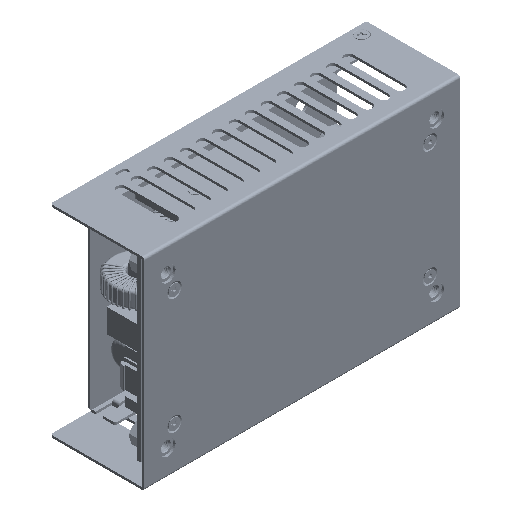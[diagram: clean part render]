
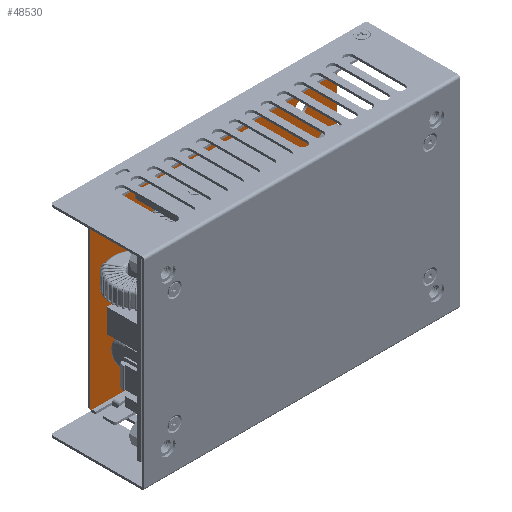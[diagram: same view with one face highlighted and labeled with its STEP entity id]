
A CAD part, isometric view. The second image highlights one B-rep face of the part: STEP entity #48530.
In plain terms, the highlighted planar face has unit normal (0, -1, 0).
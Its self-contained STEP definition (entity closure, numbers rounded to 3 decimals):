
#5991 = CARTESIAN_POINT ( 'NONE',  ( 59., 15., -41.3 ) ) ;
#6371 = ORIENTED_EDGE ( 'NONE', *, *, #142259, .F. ) ;
#6690 = EDGE_CURVE ( 'NONE', #109382, #33200, #245740, .T. ) ;
#8556 = DIRECTION ( 'NONE',  ( -1., 0., 0. ) ) ;
#10944 = CARTESIAN_POINT ( 'NONE',  ( 59., 15., -37.4 ) ) ;
#12196 = ORIENTED_EDGE ( 'NONE', *, *, #52562, .T. ) ;
#12237 = LINE ( 'NONE', #10944, #219708 ) ;
#12455 = ORIENTED_EDGE ( 'NONE', *, *, #212007, .T. ) ;
#12534 = EDGE_CURVE ( 'NONE', #62333, #123809, #203147, .T. ) ;
#12924 = DIRECTION ( 'NONE',  ( 0., -1., 0. ) ) ;
#13942 = PLANE ( 'NONE',  #137187 ) ;
#14327 = EDGE_CURVE ( 'NONE', #179718, #181328, #251128, .T. ) ;
#14764 = CARTESIAN_POINT ( 'NONE',  ( 31., 15., 26.5 ) ) ;
#15979 = ORIENTED_EDGE ( 'NONE', *, *, #12534, .T. ) ;
#16812 = CARTESIAN_POINT ( 'NONE',  ( -59., 15., 40.3 ) ) ;
#17821 = CARTESIAN_POINT ( 'NONE',  ( 59., 15., 42.4 ) ) ;
#23015 = CARTESIAN_POINT ( 'NONE',  ( 47.5, 15., 36.4 ) ) ;
#33200 = VERTEX_POINT ( 'NONE', #250126 ) ;
#38866 = FACE_BOUND ( 'NONE', #132678, .T. ) ;
#39366 = CARTESIAN_POINT ( 'NONE',  ( 46.5, 15., -36.4 ) ) ;
#41255 = CIRCLE ( 'NONE', #180224, 1. ) ;
#44961 = CARTESIAN_POINT ( 'NONE',  ( 58.9, 15., 41.3 ) ) ;
#45938 = VECTOR ( 'NONE', #73579, 1000. ) ;
#47886 = ORIENTED_EDGE ( 'NONE', *, *, #6690, .F. ) ;
#48512 = CARTESIAN_POINT ( 'NONE',  ( 58.9, 15., -41.3 ) ) ;
#48530 = ADVANCED_FACE ( 'NONE', ( #38866, #117916 ), #13942, .F. ) ;
#52475 = LINE ( 'NONE', #132878, #45938 ) ;
#52544 = EDGE_CURVE ( 'NONE', #235434, #109382, #124423, .T. ) ;
#52562 = EDGE_CURVE ( 'NONE', #138876, #73106, #134453, .T. ) ;
#56216 = VECTOR ( 'NONE', #89128, 1000. ) ;
#57631 = VERTEX_POINT ( 'NONE', #137334 ) ;
#59081 = VECTOR ( 'NONE', #8556, 1000. ) ;
#59282 = DIRECTION ( 'NONE',  ( -1., 0., 0. ) ) ;
#59777 = EDGE_CURVE ( 'NONE', #154715, #235434, #12237, .T. ) ;
#60974 = VERTEX_POINT ( 'NONE', #181398 ) ;
#62333 = VERTEX_POINT ( 'NONE', #213561 ) ;
#62439 = CARTESIAN_POINT ( 'NONE',  ( 47.5, 15., -36.4 ) ) ;
#64254 = ORIENTED_EDGE ( 'NONE', *, *, #150198, .F. ) ;
#65245 = ORIENTED_EDGE ( 'NONE', *, *, #138652, .T. ) ;
#73106 = VERTEX_POINT ( 'NONE', #103647 ) ;
#73579 = DIRECTION ( 'NONE',  ( -1., 0., 0. ) ) ;
#74261 = LINE ( 'NONE', #233673, #74991 ) ;
#74991 = VECTOR ( 'NONE', #59282, 1000. ) ;
#75593 = AXIS2_PLACEMENT_3D ( 'NONE', #23015, #203472, #225815 ) ;
#78396 = DIRECTION ( 'NONE',  ( 0., 0., 1. ) ) ;
#82752 = DIRECTION ( 'NONE',  ( 0., 1., 0. ) ) ;
#89128 = DIRECTION ( 'NONE',  ( 0., 0., -1. ) ) ;
#94589 = DIRECTION ( 'NONE',  ( 0., 0., 1. ) ) ;
#102068 = DIRECTION ( 'NONE',  ( 0., 0., -1. ) ) ;
#102852 = VERTEX_POINT ( 'NONE', #39366 ) ;
#103091 = CARTESIAN_POINT ( 'NONE',  ( -60., 15., -40.3 ) ) ;
#103647 = CARTESIAN_POINT ( 'NONE',  ( 47.5, 15., 37.4 ) ) ;
#109382 = VERTEX_POINT ( 'NONE', #48512 ) ;
#113243 = CARTESIAN_POINT ( 'NONE',  ( -59., 15., -40.3 ) ) ;
#115863 = DIRECTION ( 'NONE',  ( 0., 0., 1. ) ) ;
#117916 = FACE_OUTER_BOUND ( 'NONE', #155706, .T. ) ;
#120814 = ORIENTED_EDGE ( 'NONE', *, *, #152577, .T. ) ;
#121878 = VECTOR ( 'NONE', #102068, 1000. ) ;
#123809 = VERTEX_POINT ( 'NONE', #168181 ) ;
#123943 = CARTESIAN_POINT ( 'NONE',  ( 46.5, 15., 36.4 ) ) ;
#124423 = LINE ( 'NONE', #126977, #121878 ) ;
#125566 = EDGE_CURVE ( 'NONE', #60974, #57631, #139998, .T. ) ;
#126977 = CARTESIAN_POINT ( 'NONE',  ( 58.9, 15., -37.4 ) ) ;
#129270 = ORIENTED_EDGE ( 'NONE', *, *, #125566, .T. ) ;
#132678 = EDGE_LOOP ( 'NONE', ( #157491, #129270 ) ) ;
#132878 = CARTESIAN_POINT ( 'NONE',  ( 59., 15., 37.4 ) ) ;
#133885 = CARTESIAN_POINT ( 'NONE',  ( -60., 15., -41.3 ) ) ;
#134453 = CIRCLE ( 'NONE', #75593, 1. ) ;
#137187 = AXIS2_PLACEMENT_3D ( 'NONE', #17821, #154869, #78396 ) ;
#137334 = CARTESIAN_POINT ( 'NONE',  ( 31., 15., 29.3 ) ) ;
#138489 = DIRECTION ( 'NONE',  ( 0., 1., 0. ) ) ;
#138652 = EDGE_CURVE ( 'NONE', #154715, #102852, #255836, .T. ) ;
#138876 = VERTEX_POINT ( 'NONE', #123943 ) ;
#139998 = CIRCLE ( 'NONE', #257714, 2.8 ) ;
#141549 = DIRECTION ( 'NONE',  ( 0., 0., 1. ) ) ;
#142259 = EDGE_CURVE ( 'NONE', #181328, #73106, #52475, .T. ) ;
#150198 = EDGE_CURVE ( 'NONE', #236550, #123809, #234025, .T. ) ;
#152577 = EDGE_CURVE ( 'NONE', #236550, #33200, #41255, .T. ) ;
#154715 = VERTEX_POINT ( 'NONE', #202854 ) ;
#154869 = DIRECTION ( 'NONE',  ( 0., 1., 0. ) ) ;
#155706 = EDGE_LOOP ( 'NONE', ( #64254, #120814, #47886, #242288, #195190, #65245, #166439, #12196, #6371, #211367, #12455, #15979 ) ) ;
#157491 = ORIENTED_EDGE ( 'NONE', *, *, #234311, .T. ) ;
#158289 = DIRECTION ( 'NONE',  ( 0., 0., 1. ) ) ;
#160468 = DIRECTION ( 'NONE',  ( 0., 0., 1. ) ) ;
#166439 = ORIENTED_EDGE ( 'NONE', *, *, #225992, .F. ) ;
#168181 = CARTESIAN_POINT ( 'NONE',  ( -60., 15., 40.3 ) ) ;
#174223 = DIRECTION ( 'NONE',  ( 1., 0., 0. ) ) ;
#175127 = DIRECTION ( 'NONE',  ( 0., -1., 0. ) ) ;
#179718 = VERTEX_POINT ( 'NONE', #44961 ) ;
#180224 = AXIS2_PLACEMENT_3D ( 'NONE', #113243, #175127, #115863 ) ;
#181328 = VERTEX_POINT ( 'NONE', #195029 ) ;
#181398 = CARTESIAN_POINT ( 'NONE',  ( 31., 15., 23.7 ) ) ;
#181513 = CARTESIAN_POINT ( 'NONE',  ( 31., 15., 26.5 ) ) ;
#183648 = DIRECTION ( 'NONE',  ( 0., 1., 0. ) ) ;
#188507 = AXIS2_PLACEMENT_3D ( 'NONE', #62439, #183648, #141549 ) ;
#189226 = DIRECTION ( 'NONE',  ( 0., 0., 1. ) ) ;
#195029 = CARTESIAN_POINT ( 'NONE',  ( 58.9, 15., 37.4 ) ) ;
#195190 = ORIENTED_EDGE ( 'NONE', *, *, #59777, .F. ) ;
#196986 = VECTOR ( 'NONE', #189226, 1000. ) ;
#199038 = CARTESIAN_POINT ( 'NONE',  ( 46.5, 15., -37.4 ) ) ;
#202854 = CARTESIAN_POINT ( 'NONE',  ( 47.5, 15., -37.4 ) ) ;
#203147 = CIRCLE ( 'NONE', #220047, 1. ) ;
#203472 = DIRECTION ( 'NONE',  ( 0., 1., 0. ) ) ;
#206405 = CARTESIAN_POINT ( 'NONE',  ( 58.9, 15., 41.3 ) ) ;
#211367 = ORIENTED_EDGE ( 'NONE', *, *, #14327, .F. ) ;
#212007 = EDGE_CURVE ( 'NONE', #179718, #62333, #74261, .T. ) ;
#213561 = CARTESIAN_POINT ( 'NONE',  ( -59., 15., 41.3 ) ) ;
#219708 = VECTOR ( 'NONE', #174223, 1000. ) ;
#220047 = AXIS2_PLACEMENT_3D ( 'NONE', #16812, #12924, #94589 ) ;
#225815 = DIRECTION ( 'NONE',  ( 0., 0., 1. ) ) ;
#225992 = EDGE_CURVE ( 'NONE', #138876, #102852, #259594, .T. ) ;
#233673 = CARTESIAN_POINT ( 'NONE',  ( 59., 15., 41.3 ) ) ;
#234025 = LINE ( 'NONE', #133885, #196986 ) ;
#234311 = EDGE_CURVE ( 'NONE', #57631, #60974, #235956, .T. ) ;
#235434 = VERTEX_POINT ( 'NONE', #257199 ) ;
#235956 = CIRCLE ( 'NONE', #252677, 2.8 ) ;
#236550 = VERTEX_POINT ( 'NONE', #103091 ) ;
#239832 = DIRECTION ( 'NONE',  ( 0., 0., -1. ) ) ;
#242288 = ORIENTED_EDGE ( 'NONE', *, *, #52544, .F. ) ;
#243177 = VECTOR ( 'NONE', #239832, 1000. ) ;
#245740 = LINE ( 'NONE', #5991, #59081 ) ;
#250126 = CARTESIAN_POINT ( 'NONE',  ( -59., 15., -41.3 ) ) ;
#251128 = LINE ( 'NONE', #206405, #56216 ) ;
#252677 = AXIS2_PLACEMENT_3D ( 'NONE', #181513, #82752, #160468 ) ;
#255836 = CIRCLE ( 'NONE', #188507, 1. ) ;
#257199 = CARTESIAN_POINT ( 'NONE',  ( 58.9, 15., -37.4 ) ) ;
#257714 = AXIS2_PLACEMENT_3D ( 'NONE', #14764, #138489, #158289 ) ;
#259594 = LINE ( 'NONE', #199038, #243177 ) ;
